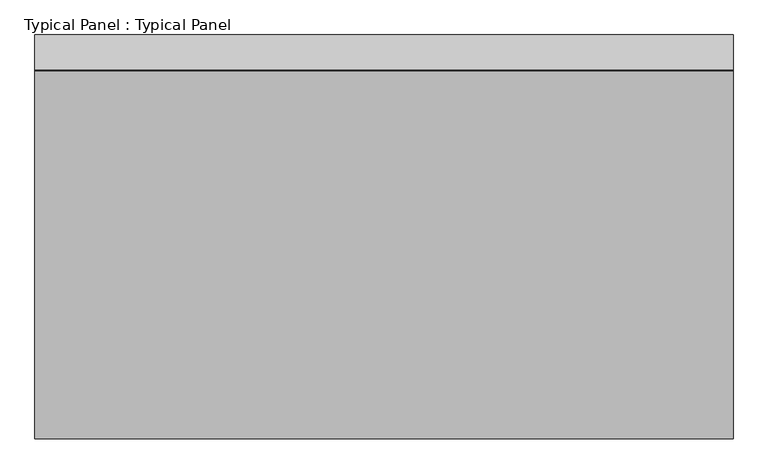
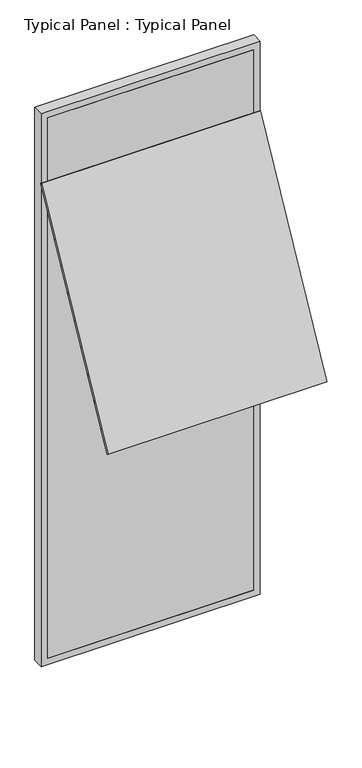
"""IFC4 building model written with IfcOpenShell, lengths in millimetres: plate geometry, Typical Panel : Typical Panel."""

from ifc_helpers import new_model, si_unit, frame, origin, place, context, project, spatial, polyline, outline, extrude, source, transform, mapped, element, save


def typical_panel_typical_panel_c9221e3d(model_context):
    return source(origin(), model_context, "Body", "SweptSolid", [
        extrude(outline(polyline([(0.0, -10.0), (0.0, 0.0), (1500.00002, 0.0), (1500.00002, -10.0), (0.0, -10.0)])), frame((750.00001, -793.7122255, 2016.648044), z_axis=(0.0, 0.46947156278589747, 0.8829475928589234), x_axis=(-1.0, 0.0, 0.0)), (0.0, 0.0, 1.0), 1680.0),
        extrude(outline(polyline([(0.0, -750.00001), (0.0, 750.00001), (4000.0, 750.00001), (4000.0, -750.00001), (0.0, -750.00001)]), holes=[polyline([(45.0, 705.00001), (45.0, -705.00001), (3955.0, -705.00001), (3955.0, 705.00001), (45.0, 705.00001)])]), frame((0.0, -1.5797986, 0.0), z_axis=(0.0, 1.0, 0.0), x_axis=(0.0, 0.0, 1.0)), (0.0, 0.0, 1.0), 75.0),
        extrude(outline(polyline([(705.00001, -1.5797986), (-705.00001, -1.5797986), (-705.00001, 13.4202014), (705.00001, 13.4202014), (705.00001, -1.5797986)])), frame((0.0, 0.0, 45.0), z_axis=(0.0, 0.0, 1.0), x_axis=(1.0, 0.0, 0.0)), (0.0, 0.0, 1.0), 3910.0),
    ])


if __name__ == "__main__":
    model = new_model("IFC4")
    model_context = context("Model", 3, world=origin())
    ifc_project = project(units=[si_unit("LENGTHUNIT", "METRE", prefix="MILLI")], contexts=[model_context])
    site = spatial("IfcSite", under=ifc_project)
    building = spatial("IfcBuilding", under=site)
    placement = place(None, origin())
    typical_panel_typical_panel_shape = typical_panel_typical_panel_c9221e3d(model_context)
    element("IfcPlate", 1, ObjectType="Typical Panel : Typical Panel", at=placement, inside=building, context=model_context, shape_type="MappedRepresentation", body=[
        mapped(typical_panel_typical_panel_shape, transform((0.0, 0.0, 0.0), x_axis=(1.0, 0.0, 0.0), y_axis=(0.0, 1.0, 0.0), z_axis=(0.0, 0.0, 1.0))),
    ])
    save(model, "model.ifc")
